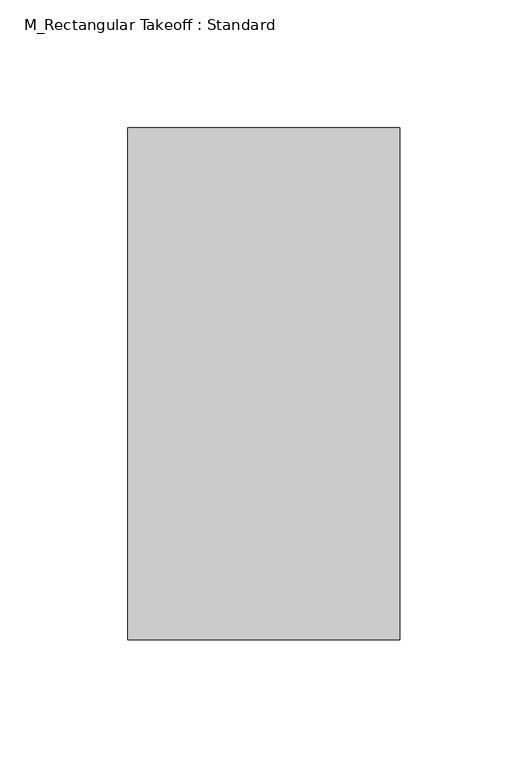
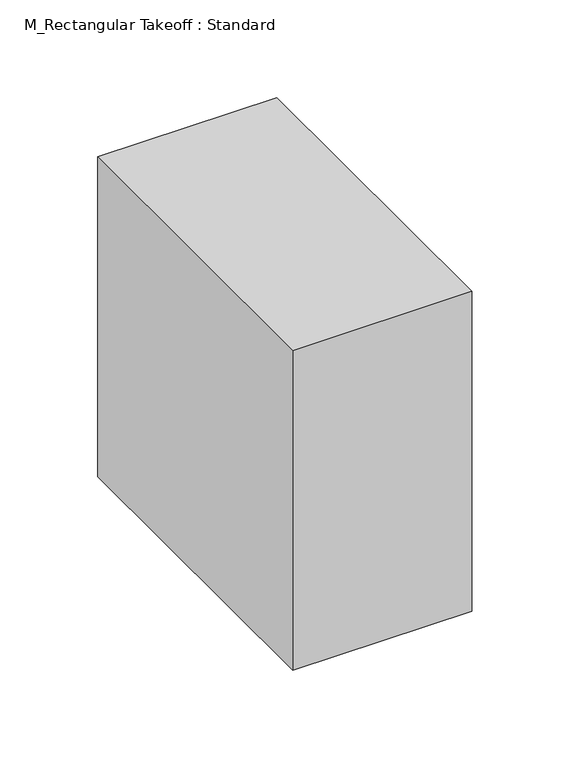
"""IFC4 building model written with IfcOpenShell, lengths in millimetres: duct fitting geometry, M_Rectangular Takeoff : Standard."""

from ifc_helpers import new_model, si_unit, frame, origin, place, context, project, spatial, polyline, outline, extrude, source, transform, mapped, element, save


def m_rectangular_takeoff_standard_c3662dd1(model_context):
    return source(origin(), model_context, "Body", "SweptSolid", [
        extrude(outline(polyline([(-6.096, -100.0), (-6.096, 100.0), (100.0, 100.0), (100.0, -100.0), (-6.096, -100.0)])), frame((0.0, 0.0, -100.0), z_axis=(0.0, 0.0, 1.0), x_axis=(1.0, 0.0, 0.0)), (0.0, 0.0, 1.0), 200.0),
        extrude(outline(polyline([(-6.096, -100.0), (-6.096, 100.0), (100.0, 100.0), (100.0, -100.0), (-6.096, -100.0)])), frame((0.0, 0.0, -100.0), z_axis=(0.0, 0.0, 1.0), x_axis=(1.0, 0.0, 0.0)), (0.0, 0.0, 1.0), 200.0),
        extrude(outline(polyline([(-6.096, -100.0), (-6.096, 100.0), (100.0, 100.0), (100.0, -100.0), (-6.096, -100.0)])), frame((0.0, 0.0, -100.0), z_axis=(0.0, 0.0, 1.0), x_axis=(1.0, 0.0, 0.0)), (0.0, 0.0, 1.0), 200.0),
    ])


if __name__ == "__main__":
    model = new_model("IFC4")
    model_context = context("Model", 3, world=origin())
    ifc_project = project(units=[si_unit("LENGTHUNIT", "METRE", prefix="MILLI")], contexts=[model_context])
    site = spatial("IfcSite", under=ifc_project)
    building = spatial("IfcBuilding", under=site)
    placement = place(None, origin())
    m_rectangular_takeoff_standard_shape = m_rectangular_takeoff_standard_c3662dd1(model_context)
    element("IfcDuctFitting", 1, ObjectType="M_Rectangular Takeoff : Standard", at=placement, inside=building, context=model_context, shape_type="MappedRepresentation", body=[
        mapped(m_rectangular_takeoff_standard_shape, transform((0.0, 0.0, 0.0), x_axis=(1.0, 0.0, 0.0), y_axis=(0.0, 1.0, 0.0), z_axis=(0.0, 0.0, 1.0))),
    ])
    save(model, "model.ifc")
